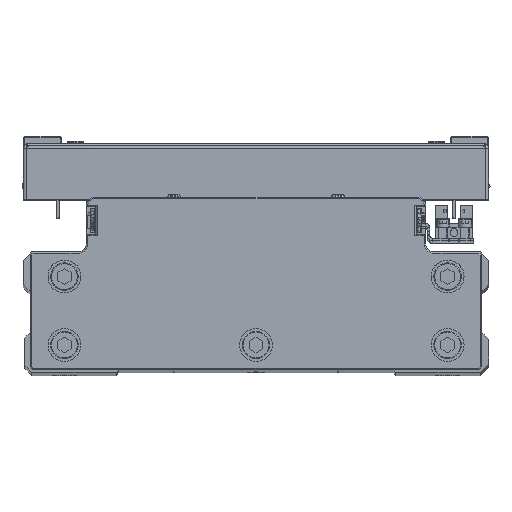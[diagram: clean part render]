
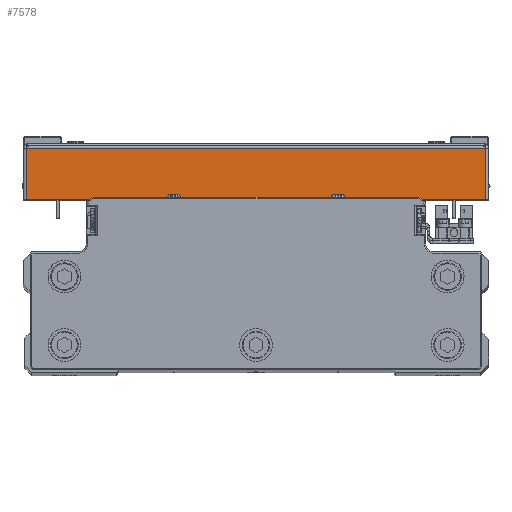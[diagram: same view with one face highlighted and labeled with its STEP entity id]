
A CAD part, top view. The second image highlights one B-rep face of the part: STEP entity #7578.
In plain terms, the highlighted planar face has unit normal (0, 0, 1) as drawn and (1, 0, 0) by its records, which use the part's own axes.
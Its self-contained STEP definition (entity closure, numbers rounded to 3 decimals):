
#808 = CARTESIAN_POINT ( 'NONE',  ( 110., 0., 83.929 ) ) ;
#4367 = DIRECTION ( 'NONE',  ( 0., 1., 0. ) ) ;
#4661 = CARTESIAN_POINT ( 'NONE',  ( 110., 1., -83.929 ) ) ;
#6647 = EDGE_LOOP ( 'NONE', ( #29720, #27166, #10583, #43742 ) ) ;
#6869 = VECTOR ( 'NONE', #8342, 1000. ) ;
#7578 = ADVANCED_FACE ( 'NONE', ( #29122 ), #42880, .F. ) ;
#8139 = VERTEX_POINT ( 'NONE', #16403 ) ;
#8151 = DIRECTION ( 'NONE',  ( 0., 0., 1. ) ) ;
#8342 = DIRECTION ( 'NONE',  ( 0., 0., 1. ) ) ;
#9948 = EDGE_CURVE ( 'NONE', #21637, #39530, #21516, .T. ) ;
#10583 = ORIENTED_EDGE ( 'NONE', *, *, #34765, .T. ) ;
#10696 = CARTESIAN_POINT ( 'NONE',  ( 110., 19.5, -83.929 ) ) ;
#11971 = CARTESIAN_POINT ( 'NONE',  ( 110., 0., 0. ) ) ;
#14520 = EDGE_CURVE ( 'NONE', #21637, #44483, #25271, .T. ) ;
#14573 = DIRECTION ( 'NONE',  ( 0., 1., 0. ) ) ;
#16403 = CARTESIAN_POINT ( 'NONE',  ( 110., 19.5, 83.929 ) ) ;
#19820 = AXIS2_PLACEMENT_3D ( 'NONE', #11971, #25727, #39491 ) ;
#21516 = LINE ( 'NONE', #35294, #30086 ) ;
#21637 = VERTEX_POINT ( 'NONE', #4661 ) ;
#25271 = LINE ( 'NONE', #39053, #42412 ) ;
#25483 = LINE ( 'NONE', #39248, #6869 ) ;
#25727 = DIRECTION ( 'NONE',  ( -1., 0., 0. ) ) ;
#27166 = ORIENTED_EDGE ( 'NONE', *, *, #9948, .T. ) ;
#28681 = CARTESIAN_POINT ( 'NONE',  ( 110., 1., 83.929 ) ) ;
#29122 = FACE_OUTER_BOUND ( 'NONE', #6647, .T. ) ;
#29720 = ORIENTED_EDGE ( 'NONE', *, *, #14520, .F. ) ;
#30086 = VECTOR ( 'NONE', #4367, 1000. ) ;
#31716 = LINE ( 'NONE', #808, #37143 ) ;
#34765 = EDGE_CURVE ( 'NONE', #39530, #8139, #25483, .T. ) ;
#34969 = EDGE_CURVE ( 'NONE', #44483, #8139, #31716, .T. ) ;
#35294 = CARTESIAN_POINT ( 'NONE',  ( 110., 0., -83.929 ) ) ;
#37143 = VECTOR ( 'NONE', #14573, 1000. ) ;
#39053 = CARTESIAN_POINT ( 'NONE',  ( 110., 1., 85. ) ) ;
#39248 = CARTESIAN_POINT ( 'NONE',  ( 110., 19.5, 0. ) ) ;
#39491 = DIRECTION ( 'NONE',  ( 0., -1., 0. ) ) ;
#39530 = VERTEX_POINT ( 'NONE', #10696 ) ;
#42412 = VECTOR ( 'NONE', #8151, 1000. ) ;
#42880 = PLANE ( 'NONE',  #19820 ) ;
#43742 = ORIENTED_EDGE ( 'NONE', *, *, #34969, .F. ) ;
#44483 = VERTEX_POINT ( 'NONE', #28681 ) ;
